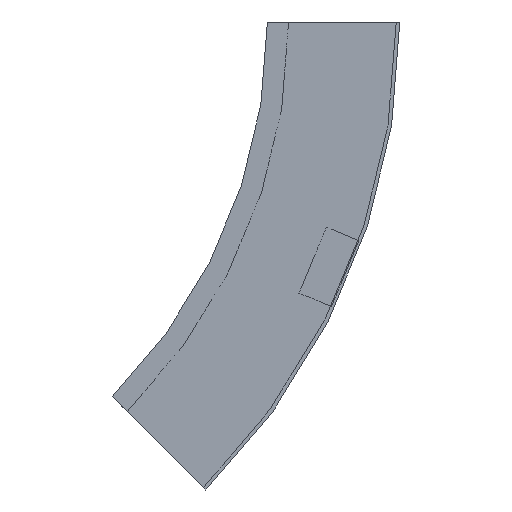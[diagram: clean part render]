
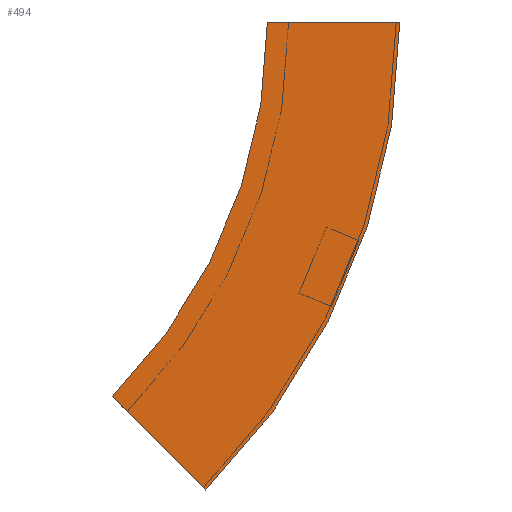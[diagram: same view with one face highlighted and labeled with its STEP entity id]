
A CAD part, left-side view. The second image highlights one B-rep face of the part: STEP entity #494.
In plain terms, the highlighted planar face has unit normal (-1, 0, 0) as drawn and (1, 0, 0) by its records, which use the part's own axes.
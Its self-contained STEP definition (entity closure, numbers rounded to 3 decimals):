
#17 = VERTEX_POINT ( 'NONE', #449 ) ;
#30 = AXIS2_PLACEMENT_3D ( 'NONE', #447, #439, #136 ) ;
#44 = EDGE_CURVE ( 'NONE', #436, #120, #194, .T. ) ;
#52 = CARTESIAN_POINT ( 'NONE',  ( 0., 300., 0. ) ) ;
#76 = LINE ( 'NONE', #238, #219 ) ;
#84 = EDGE_LOOP ( 'NONE', ( #111, #386, #157, #377 ) ) ;
#89 = EDGE_CURVE ( 'NONE', #436, #139, #451, .T. ) ;
#100 = DIRECTION ( 'NONE',  ( 1., 0., 0. ) ) ;
#101 = CIRCLE ( 'NONE', #30, 300. ) ;
#105 = DIRECTION ( 'NONE',  ( 0., -1., 0. ) ) ;
#108 = CARTESIAN_POINT ( 'NONE',  ( 0., -75., 0. ) ) ;
#111 = ORIENTED_EDGE ( 'NONE', *, *, #444, .F. ) ;
#120 = VERTEX_POINT ( 'NONE', #497 ) ;
#136 = DIRECTION ( 'NONE',  ( 0., -1., 0. ) ) ;
#139 = VERTEX_POINT ( 'NONE', #234 ) ;
#157 = ORIENTED_EDGE ( 'NONE', *, *, #44, .T. ) ;
#162 = FACE_OUTER_BOUND ( 'NONE', #84, .T. ) ;
#194 = CIRCLE ( 'NONE', #261, 375. ) ;
#219 = VECTOR ( 'NONE', #338, 1000. ) ;
#234 = CARTESIAN_POINT ( 'NONE',  ( 0., 0., 0. ) ) ;
#238 = CARTESIAN_POINT ( 'NONE',  ( 0., 34.835, -265.165 ) ) ;
#261 = AXIS2_PLACEMENT_3D ( 'NONE', #52, #100, #105 ) ;
#316 = DIRECTION ( 'NONE',  ( 0., 1., 0. ) ) ;
#319 = CARTESIAN_POINT ( 'NONE',  ( 0., -75., 0. ) ) ;
#338 = DIRECTION ( 'NONE',  ( 0., 0.707, 0.707 ) ) ;
#377 = ORIENTED_EDGE ( 'NONE', *, *, #535, .T. ) ;
#378 = PLANE ( 'NONE',  #480 ) ;
#383 = DIRECTION ( 'NONE',  ( -1., 0., 0. ) ) ;
#386 = ORIENTED_EDGE ( 'NONE', *, *, #89, .F. ) ;
#436 = VERTEX_POINT ( 'NONE', #319 ) ;
#439 = DIRECTION ( 'NONE',  ( 1., 0., 0. ) ) ;
#444 = EDGE_CURVE ( 'NONE', #139, #17, #101, .T. ) ;
#447 = CARTESIAN_POINT ( 'NONE',  ( 0., 300., 0. ) ) ;
#449 = CARTESIAN_POINT ( 'NONE',  ( 0., 87.868, -212.132 ) ) ;
#451 = LINE ( 'NONE', #108, #459 ) ;
#459 = VECTOR ( 'NONE', #316, 1000. ) ;
#468 = DIRECTION ( 'NONE',  ( 0., 0., 1. ) ) ;
#480 = AXIS2_PLACEMENT_3D ( 'NONE', #512, #383, #468 ) ;
#494 = ADVANCED_FACE ( 'NONE', ( #162 ), #378, .F. ) ;
#497 = CARTESIAN_POINT ( 'NONE',  ( 0., 34.835, -265.165 ) ) ;
#512 = CARTESIAN_POINT ( 'NONE',  ( 0., -75., 0. ) ) ;
#535 = EDGE_CURVE ( 'NONE', #120, #17, #76, .T. ) ;
